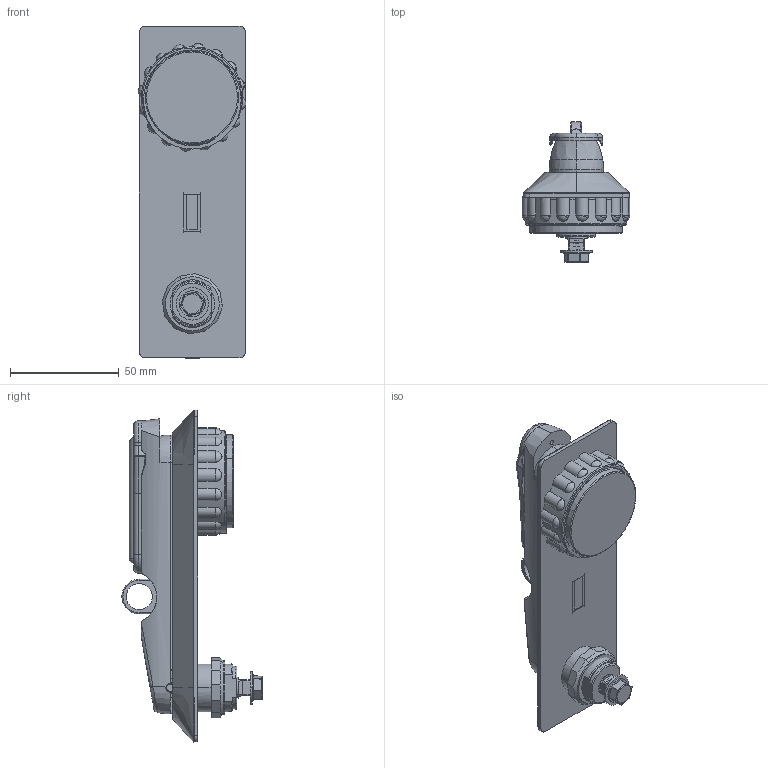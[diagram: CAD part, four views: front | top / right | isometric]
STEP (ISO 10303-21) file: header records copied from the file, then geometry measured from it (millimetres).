
FILE_DESCRIPTION (( 'STEP AP214' ), '1' );
FILE_NAME ('RS520-U.STEP', '2010-02-25T17:28:57', ( '£ukaszC' ), ( '' ), 'SwSTEP 2.0', 'SolidWorks 2008', '' );
FILE_SCHEMA (( 'AUTOMOTIVE_DESIGN' ));
Length unit declared in the file: millimetre
Products named in the file (15): 1B.RS400.02.03.01; 1B.RS500-U.02.01.00; 1B RS 400.01.02.00_Domyœlna; 1B.RS420-U.01.01.00; RS520-U; 1B.RS400.01.03.00; 1B.RS100.01.04.00_Domyœlna; 1B.RS100-U.02.04.01; M6 x 10_Domyœlna; O-RING 45 x 2_Domyœlna; O-RING 12x2_Domyœlna; Zapinka RESS_Domyœlna; 1B. RS100.02.02.00_Domyœlna; 6,5 x 1; 1B.RS 100.01.06.00_Domyœlna
Assembly tree (14 placements, depth 2):
  RS520-U
    1B.RS400.01.03.00
    6,5 x 1
    1B.RS 100.01.06.00_Domyœlna
    M6 x 10_Domyœlna
    O-RING 45 x 2_Domyœlna
    1B RS 400.01.02.00_Domyœlna
    O-RING 12x2_Domyœlna
    1B.RS100.01.04.00_Domyœlna
    1B.RS100-U.02.04.01
    Zapinka RESS_Domyœlna
    1B.RS500-U.02.01.00
    1B. RS100.02.02.00_Domyœlna
    1B.RS420-U.01.01.00
    1B.RS400.02.03.01
Bounding box: 49.58 x 64.6 x 153 mm (x, y, z)
Volume: 142263.7 mm3; surface area: 76653.1 mm2
Topology: 15 solids, 15 shells, 637 faces, 1649 edges, 1046 vertices
Faces by surface type: cylinder 225, plane 222, torus 88, bspline 42, sphere 38, cone 22
Entity records: 26205 total; most frequent: CARTESIAN_POINT 10235, ORIENTED_EDGE 3274, DIRECTION 3181, EDGE_CURVE 1637, AXIS2_PLACEMENT_3D 1238, VERTEX_POINT 1044, VECTOR 705, LINE 705
